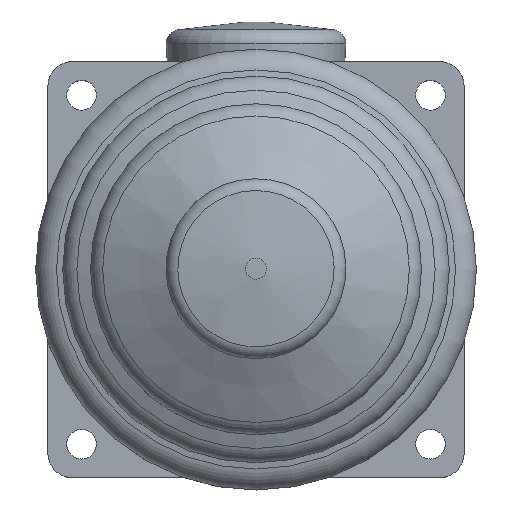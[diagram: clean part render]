
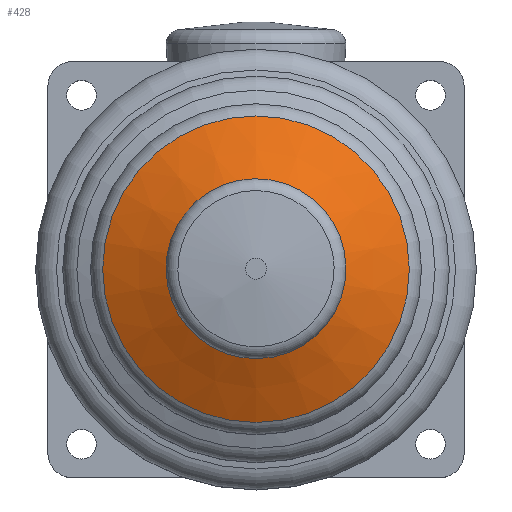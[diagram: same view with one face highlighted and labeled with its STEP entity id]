
A CAD part, top view. The second image highlights one B-rep face of the part: STEP entity #428.
In plain terms, the highlighted conical face has half-angle 63.297 degrees and reference radius 8.581 mm.
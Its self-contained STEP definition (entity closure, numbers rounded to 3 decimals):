
#428 = ADVANCED_FACE( '', ( #1109, #1110 ), #1111, .T. );
#1109 = FACE_OUTER_BOUND( '', #2179, .T. );
#1110 = FACE_BOUND( '', #2180, .T. );
#1111 = CONICAL_SURFACE( '', #2181, 8.581, 1.105 );
#2179 = EDGE_LOOP( '', ( #3924 ) );
#2180 = EDGE_LOOP( '', ( #3925 ) );
#2181 = AXIS2_PLACEMENT_3D( '', #3926, #3927, #3928 );
#3924 = ORIENTED_EDGE( '', *, *, #6426, .F. );
#3925 = ORIENTED_EDGE( '', *, *, #6427, .T. );
#3926 = CARTESIAN_POINT( '', ( 0., 0., 32.091 ) );
#3927 = DIRECTION( '', ( 0., 0., -1. ) );
#3928 = DIRECTION( '', ( -1., 0., 0. ) );
#6426 = EDGE_CURVE( '', #7587, #7587, #7588, .T. );
#6427 = EDGE_CURVE( '', #7589, #7589, #7590, .T. );
#7587 = VERTEX_POINT( '', #9426 );
#7588 = CIRCLE( '', #9427, 15.465 );
#7589 = VERTEX_POINT( '', #9428 );
#7590 = CIRCLE( '', #9429, 8.581 );
#9426 = CARTESIAN_POINT( '', ( -15.465, 0., 28.628 ) );
#9427 = AXIS2_PLACEMENT_3D( '', #12148, #12149, #12150 );
#9428 = CARTESIAN_POINT( '', ( -8.581, 0., 32.091 ) );
#9429 = AXIS2_PLACEMENT_3D( '', #12151, #12152, #12153 );
#12148 = CARTESIAN_POINT( '', ( 0., 0., 28.628 ) );
#12149 = DIRECTION( '', ( 0., 0., -1. ) );
#12150 = DIRECTION( '', ( -1., 0., 0. ) );
#12151 = CARTESIAN_POINT( '', ( 0., 0., 32.091 ) );
#12152 = DIRECTION( '', ( 0., 0., -1. ) );
#12153 = DIRECTION( '', ( -1., 0., 0. ) );
